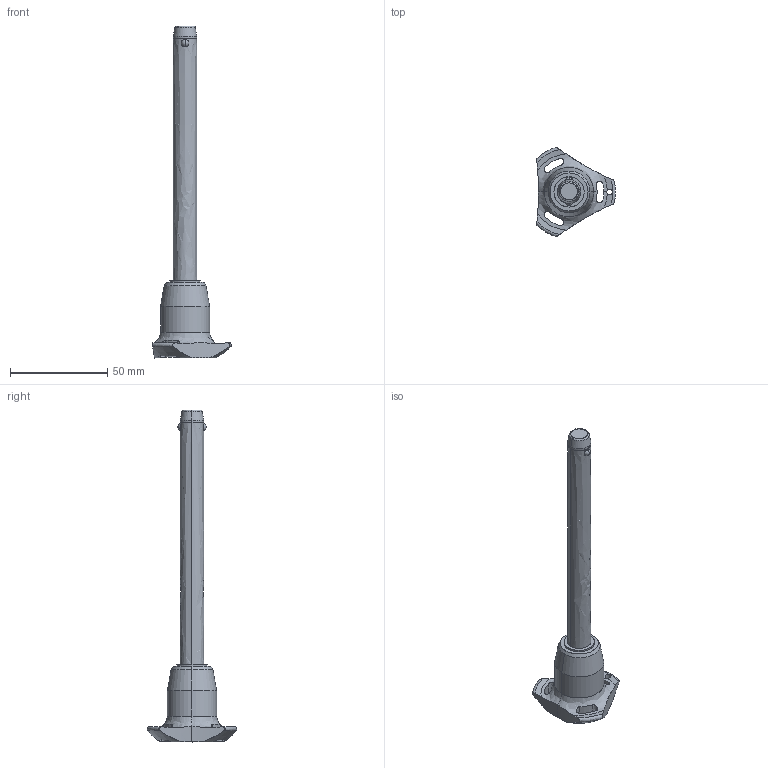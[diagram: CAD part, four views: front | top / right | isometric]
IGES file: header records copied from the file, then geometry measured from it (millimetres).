
Start section: SolidWorks IGES file using analytic representation for surfaces
Global section: file name: C:\Users\ianosborn\Desktop\33060_v2\33060.BK_v2_20240910_IGES\33060.W0880.igs; native system: SolidWorks 2019; preprocessor: SolidWorks 2019; author: IanOsborn; date: 240910.201707; units: millimetre
Bounding box: 40.5 x 45.88 x 170.3 mm (x, y, z)
Surface area: 10797.2 mm2 (no closed solid volume)
Topology: 0 solids, 0 shells, 68 faces, 1386 edges, 1382 vertices
Faces by surface type: revolution 52, bspline 16
